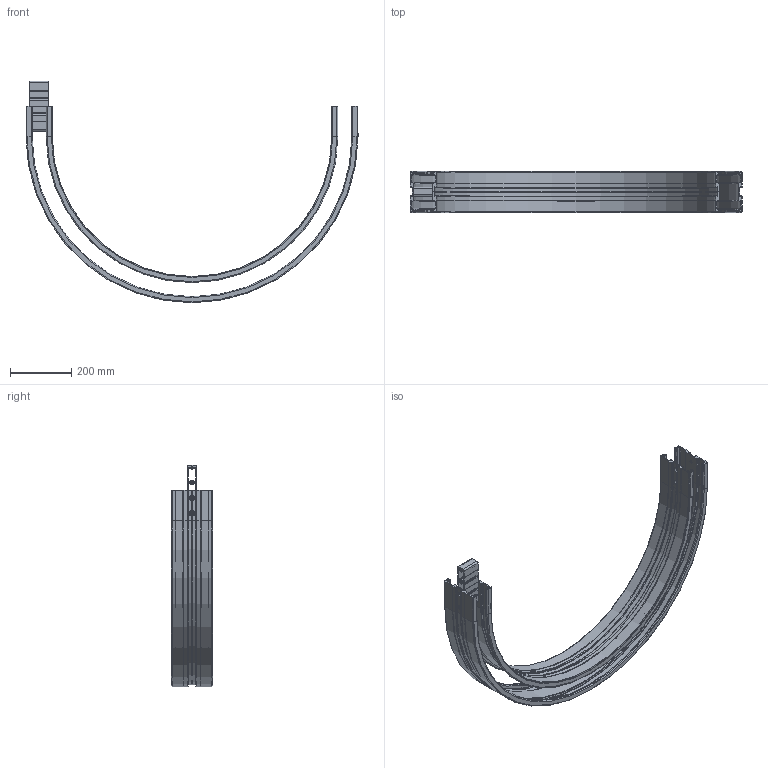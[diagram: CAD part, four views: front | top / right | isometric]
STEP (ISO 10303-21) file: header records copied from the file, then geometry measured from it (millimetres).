
FILE_DESCRIPTION (( 'STEP AP203' ), '1' );
FILE_NAME ('R2C500-180.STEP', '2008-12-02T09:28:16', ( 'faber' ), ( '' ), 'SwSTEP 2.0', 'SolidWorks 2008', '' );
FILE_SCHEMA (( 'CONFIG_CONTROL_DESIGN' ));
Length unit declared in the file: millimetre
Products named in the file (1): R2C500-180
Bounding box: 1086 x 135 x 724.75 mm (x, y, z)
Surface area: 1452678.3 mm2 (no closed solid volume)
Topology: 0 solids, 21 shells, 457 faces, 1670 edges, 1176 vertices
Faces by surface type: plane 203, cylinder 182, torus 38, cone 34
Entity records: 17679 total; most frequent: CARTESIAN_POINT 3400, DIRECTION 3158, ORIENTED_EDGE 2536, EDGE_CURVE 1670, VERTEX_POINT 1176, AXIS2_PLACEMENT_3D 1062, LINE 1034, VECTOR 1034
